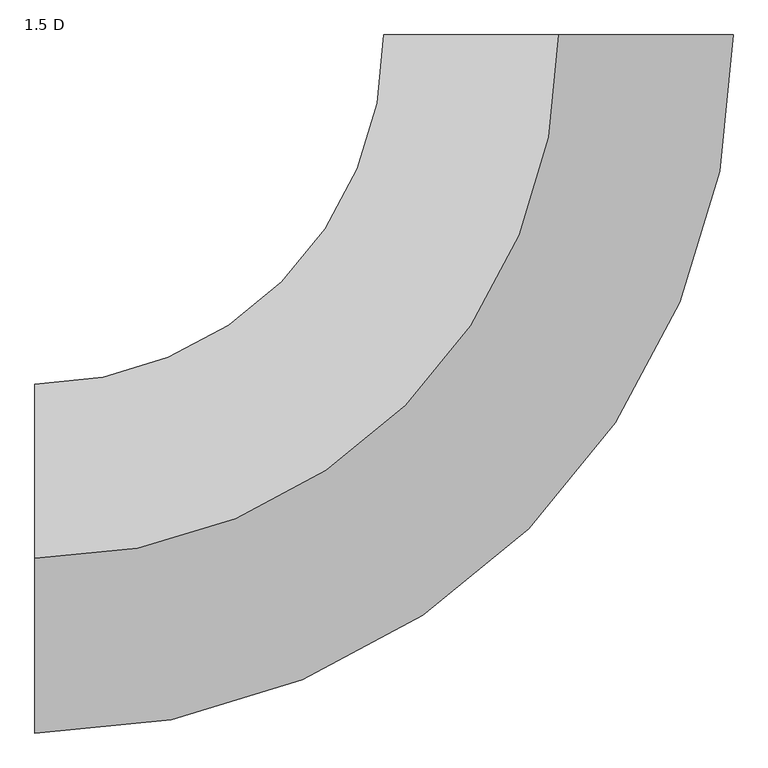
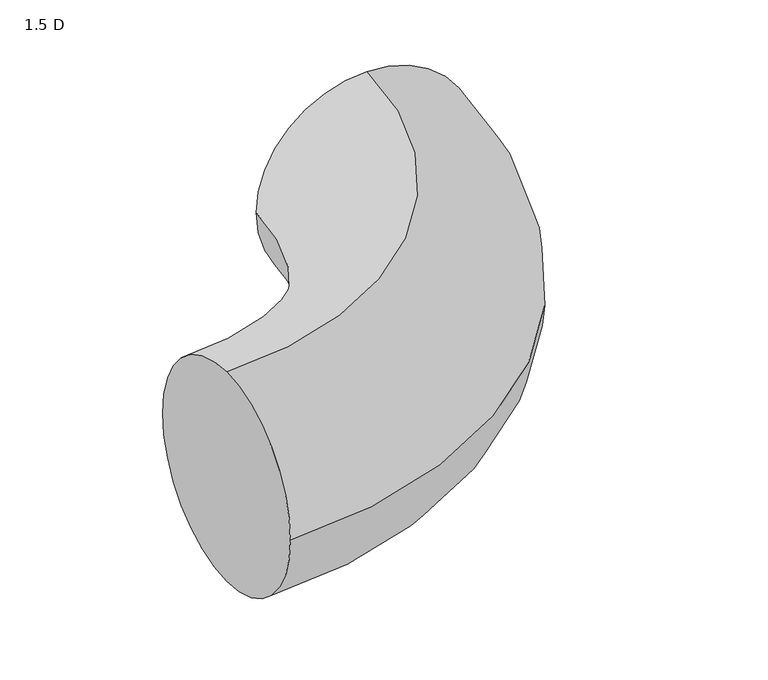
"""IFC4 building model written with IfcOpenShell, lengths in millimetres: duct fitting geometry, M_Отвод круглого сечения : 1.5 D."""

from ifc_helpers import new_model, si_unit, point, frame, origin, place, context, project, spatial, circle_curve, ellipse_curve, trimmed, source, transform, mapped, element, save
from ifc_brep_helpers import plane_surface, revolved_surface, advanced_brep


def duct_fitting_1_5_d_baae490d(model_context):
    return source(origin(), model_context, "Body", "AdvancedBrep", [
        advanced_brep(
        [(-840.0, 0.0, 280.0), (-840.0, 280.0, 0.0), (-840.0, 0.0, -280.0), (-840.0, -280.0, 0.0), (0.0, 840.0, 280.0), (280.0, 840.0, 0.0), (0.0, 840.0, -280.0), (-280.0, 840.0, 0.0)],
        [
            (0, 1, circle_curve(frame((-840.0, 0.0, 0.0), z_axis=(-1.0, 0.0, 0.0), x_axis=(0.0, 1.0, 0.0)), 280.0)),
            (1, 2, circle_curve(frame((-840.0, 0.0, 0.0), z_axis=(-1.0, 0.0, 0.0), x_axis=(0.0, 1.0, 0.0)), 280.0)),
            (2, 3, circle_curve(frame((-840.0, 0.0, 0.0), z_axis=(-1.0, 0.0, 0.0), x_axis=(0.0, 1.0, 0.0)), 280.0)),
            (3, 0, circle_curve(frame((-840.0, 0.0, 0.0), z_axis=(-1.0, 0.0, 0.0), x_axis=(0.0, 1.0, 0.0)), 280.0)),
            (4, 5, circle_curve(frame((0.0, 840.0, 0.0), z_axis=(0.0, 1.0, 0.0), x_axis=(-1.0, 0.0, 0.0)), 280.0)),
            (5, 6, circle_curve(frame((0.0, 840.0, 0.0), z_axis=(0.0, 1.0, 0.0), x_axis=(-1.0, 0.0, 0.0)), 280.0)),
            (6, 7, circle_curve(frame((0.0, 840.0, 0.0), z_axis=(0.0, 1.0, 0.0), x_axis=(-1.0, 0.0, 0.0)), 280.0)),
            (7, 4, circle_curve(frame((0.0, 840.0, 0.0), z_axis=(0.0, 1.0, 0.0), x_axis=(-1.0, 0.0, 0.0)), 280.0)),
            (7, 1, circle_curve(frame((-840.0, 840.0, 0.0), z_axis=(0.0, 0.0, -1.0), x_axis=(0.0, -1.0, 0.0)), 560.0)),
            (0, 4, circle_curve(frame((-840.0, 840.0, 280.0), z_axis=(0.0, 0.0, 1.0), x_axis=(0.0, -1.0, 0.0)), 840.0)),
            (6, 2, circle_curve(frame((-840.0, 840.0, -280.0), z_axis=(0.0, 0.0, -1.0), x_axis=(0.0, -1.0, 0.0)), 840.0)),
            (5, 3, circle_curve(frame((-840.0, 840.0, 0.0), z_axis=(0.0, 0.0, -1.0), x_axis=(0.0, -1.0, 0.0)), 1120.0)),
        ],
        [
            plane_surface(frame((-840.0, 0.0, 0.0), z_axis=(-1.0, 0.0, 0.0), x_axis=(0.0, 0.0, 1.0))),
            plane_surface(frame((0.0, 840.0, 0.0), z_axis=(0.0, 1.0, 0.0), x_axis=(0.0, 0.0, 1.0))),
            revolved_surface(trimmed(ellipse_curve(frame((-840.0, 0.0, 0.0), z_axis=(-1.0, 0.0, 0.0), x_axis=(0.0, 1.0, 0.0)), 280.0, 280.0), [point((-840.0, 0.0, 280.0))], [point((-840.0, 280.0, 0.0))], True, "CARTESIAN"), (-840.0, 840.0, 0.0), (0.0, 0.0, 1.0)),
            revolved_surface(trimmed(ellipse_curve(frame((-840.0, 0.0, 0.0), z_axis=(-1.0, 0.0, 0.0), x_axis=(0.0, 1.0, 0.0)), 280.0, 280.0), [point((-840.0, 280.0, 0.0))], [point((-840.0, 0.0, -280.0))], True, "CARTESIAN"), (-840.0, 840.0, 0.0), (0.0, 0.0, 1.0)),
            revolved_surface(trimmed(ellipse_curve(frame((-840.0, 0.0, 0.0), z_axis=(-1.0, 0.0, 0.0), x_axis=(0.0, 1.0, 0.0)), 280.0, 280.0), [point((-840.0, 0.0, -280.0))], [point((-840.0, -280.0, 0.0))], True, "CARTESIAN"), (-840.0, 840.0, 0.0), (0.0, 0.0, 1.0)),
            revolved_surface(trimmed(ellipse_curve(frame((-840.0, 0.0, 0.0), z_axis=(-1.0, 0.0, 0.0), x_axis=(0.0, 1.0, 0.0)), 280.0, 280.0), [point((-840.0, -280.0, 0.0))], [point((-840.0, 0.0, 280.0))], True, "CARTESIAN"), (-840.0, 840.0, 0.0), (0.0, 0.0, 1.0)),
        ],
        [
            (0, [[1, 2, 3, 4]]),
            (1, [[5, 6, 7, 8]]),
            (2, [[9, -1, 10, -8]]),
            (3, [[11, -2, -9, -7]]),
            (4, [[12, -3, -11, -6]]),
            (5, [[-10, -4, -12, -5]]),
        ],
    ),
    ])


if __name__ == "__main__":
    model = new_model("IFC4")
    model_context = context("Model", 3, world=origin())
    ifc_project = project(units=[si_unit("LENGTHUNIT", "METRE", prefix="MILLI")], contexts=[model_context])
    site = spatial("IfcSite", under=ifc_project)
    building = spatial("IfcBuilding", under=site)
    placement = place(None, origin())
    duct_fitting_1_5_d_shape = duct_fitting_1_5_d_baae490d(model_context)
    element("IfcDuctFitting", 1, ObjectType="M_Отвод круглого сечения : 1.5 D", at=placement, inside=building, context=model_context, shape_type="MappedRepresentation", body=[
        mapped(duct_fitting_1_5_d_shape, transform((0.0, 0.0, 0.0), x_axis=(1.0, 0.0, 0.0), y_axis=(0.0, 1.0, 0.0), z_axis=(0.0, 0.0, 1.0))),
    ])
    save(model, "model.ifc")
